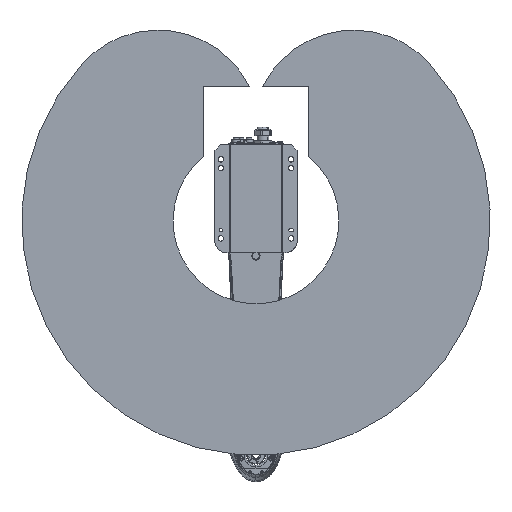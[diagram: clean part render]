
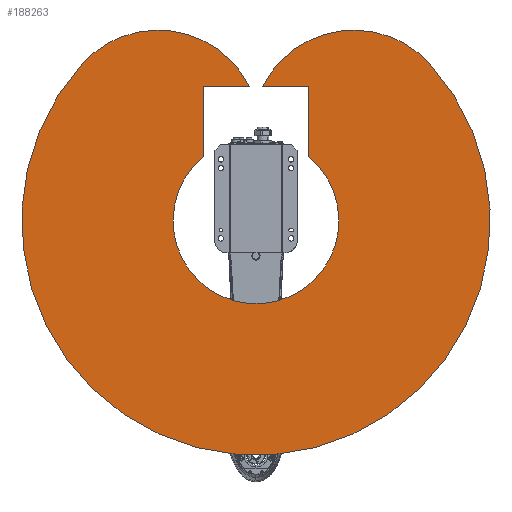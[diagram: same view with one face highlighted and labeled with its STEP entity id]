
A CAD part, front view. The second image highlights one B-rep face of the part: STEP entity #188263.
In plain terms, the highlighted planar face has unit normal (0, -1, 0) as drawn and (1, 0, 0) by its records, which use the part's own axes.
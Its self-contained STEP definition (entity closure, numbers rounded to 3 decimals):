
#188020=DIRECTION('',(0.,0.,-1.));
#188021=VECTOR('',#188020,120.681);
#188022=CARTESIAN_POINT('',(150.,90.,230.));
#188023=LINE('',#188022,#188021);
#188027=DIRECTION('',(0.,1.,0.));
#188028=VECTOR('',#188027,78.72);
#188029=CARTESIAN_POINT('',(150.,11.28,230.));
#188030=LINE('',#188029,#188028);
#188034=CARTESIAN_POINT('',(150.,167.207,150.555));
#188035=DIRECTION('',(1.,0.,0.));
#188036=DIRECTION('',(0.,0.743,0.669));
#188037=AXIS2_PLACEMENT_3D('',#188034,#188035,#188036);
#188042=CARTESIAN_POINT('',(150.,0.,0.));
#188043=DIRECTION('',(1.,0.,0.));
#188044=DIRECTION('',(0.,-0.743,0.669));
#188045=AXIS2_PLACEMENT_3D('',#188042,#188043,#188044);
#188050=CARTESIAN_POINT('',(150.,-167.207,150.555));
#188051=DIRECTION('',(1.,0.,0.));
#188052=DIRECTION('',(0.,0.891,0.454));
#188053=AXIS2_PLACEMENT_3D('',#188050,#188051,#188052);
#188058=DIRECTION('',(0.,1.,0.));
#188059=VECTOR('',#188058,78.72);
#188060=CARTESIAN_POINT('',(150.,-90.,230.));
#188061=LINE('',#188060,#188059);
#188065=DIRECTION('',(0.,0.,1.));
#188066=VECTOR('',#188065,120.681);
#188067=CARTESIAN_POINT('',(150.,-90.,109.319));
#188068=LINE('',#188067,#188066);
#188072=CARTESIAN_POINT('',(150.,0.,0.));
#188073=DIRECTION('',(-1.,0.,0.));
#188074=DIRECTION('',(0.,0.636,0.772));
#188075=AXIS2_PLACEMENT_3D('',#188072,#188073,#188074);
#188088=CARTESIAN_POINT('',(150.,90.,109.319));
#188089=CARTESIAN_POINT('',(150.,-90.,109.319));
#188090=VERTEX_POINT('',#188088);
#188091=VERTEX_POINT('',#188089);
#188092=CARTESIAN_POINT('',(150.,-297.258,267.652));
#188093=CARTESIAN_POINT('',(150.,297.258,267.652));
#188094=VERTEX_POINT('',#188092);
#188095=VERTEX_POINT('',#188093);
#188104=CARTESIAN_POINT('',(150.,-90.,230.));
#188105=CARTESIAN_POINT('',(150.,-11.28,230.));
#188106=VERTEX_POINT('',#188104);
#188107=VERTEX_POINT('',#188105);
#188108=CARTESIAN_POINT('',(150.,11.28,230.));
#188109=CARTESIAN_POINT('',(150.,90.,230.));
#188110=VERTEX_POINT('',#188108);
#188111=VERTEX_POINT('',#188109);
#188248=CARTESIAN_POINT('',(150.,0.,0.));
#188249=DIRECTION('',(1.,0.,0.));
#188250=DIRECTION('',(0.,-1.,0.));
#188251=AXIS2_PLACEMENT_3D('',#188248,#188249,#188250);
#188252=PLANE('',#188251);
#188253=ORIENTED_EDGE('',*,*,#188144,.F.);
#188254=ORIENTED_EDGE('',*,*,#188159,.F.);
#188255=ORIENTED_EDGE('',*,*,#188173,.F.);
#188256=ORIENTED_EDGE('',*,*,#188187,.F.);
#188257=ORIENTED_EDGE('',*,*,#188201,.F.);
#188258=ORIENTED_EDGE('',*,*,#188215,.F.);
#188259=ORIENTED_EDGE('',*,*,#188229,.F.);
#188260=ORIENTED_EDGE('',*,*,#188242,.F.);
#188261=EDGE_LOOP('',(#188253,#188254,#188255,#188256,#188257,#188258,#188259,
#188260));
#188262=FACE_OUTER_BOUND('',#188261,.F.);
#188038=CIRCLE('',#188037,175.);
#188046=CIRCLE('',#188045,400.);
#188054=CIRCLE('',#188053,175.);
#188076=CIRCLE('',#188075,141.6);
#188144=EDGE_CURVE('',#188111,#188090,#188023,.T.);
#188159=EDGE_CURVE('',#188110,#188111,#188030,.T.);
#188173=EDGE_CURVE('',#188095,#188110,#188038,.T.);
#188187=EDGE_CURVE('',#188094,#188095,#188046,.T.);
#188201=EDGE_CURVE('',#188107,#188094,#188054,.T.);
#188215=EDGE_CURVE('',#188106,#188107,#188061,.T.);
#188229=EDGE_CURVE('',#188091,#188106,#188068,.T.);
#188242=EDGE_CURVE('',#188090,#188091,#188076,.T.);
#188263=ADVANCED_FACE('',(#188262),#188252,.T.);
